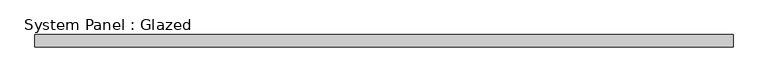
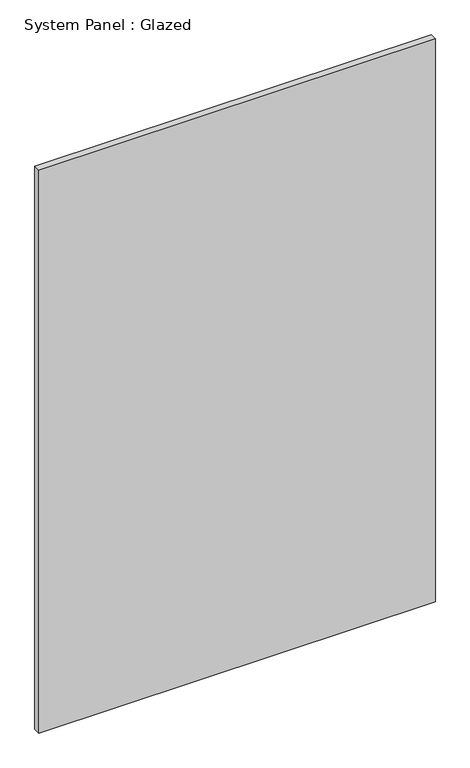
"""IFC4 building model written with IfcOpenShell, lengths in millimetres: plate geometry, System Panel : Glazed."""

import ifcopenshell
import ifcopenshell.guid

model = None  # the IFC model being written
_history = None  # IfcOwnerHistory: only IFC2X3 demands one
_inside = {}  # id of a spatial element -> (the spatial element, [elements in it])
_under = {}  # id of a project, library or spatial element -> (it, [spatial elements below it])
_declared = {}  # id of a project -> (the project, [libraries it declares])
_typed = {}  # id of a type object -> (the type object, [elements of that type])
_made_of = {}  # id of a material, layer set ... -> (it, [elements and type objects made of it])


def new_model(schema):
    """Start an empty IFC model of exactly this schema.

    Asked for "IFC4X3", IfcOpenShell would pick the latest addendum, in which some entities
    have other attributes; the version numbers below select the first issue.
    IFC2X3 requires an IfcOwnerHistory on every rooted entity: one is made here for all.
    """
    global model, _history
    if schema == "IFC4X3":
        model = ifcopenshell.file(schema_version=(4, 3, 0, 0))
    else:
        model = ifcopenshell.file(schema=schema)
    _inside.clear()
    _under.clear()
    _declared.clear()
    _typed.clear()
    _made_of.clear()
    _history = None
    if model.schema == "IFC2X3":
        org = make("IfcOrganization", Name="unknown")
        user = make(
            "IfcPersonAndOrganization",
            ThePerson=make("IfcPerson", FamilyName="unknown"),
            TheOrganization=org,
        )
        app = make(
            "IfcApplication",
            ApplicationDeveloper=org,
            Version="unknown",
            ApplicationFullName="unknown",
            ApplicationIdentifier="unknown",
        )
        _history = make(
            "IfcOwnerHistory",
            OwningUser=user,
            OwningApplication=app,
            ChangeAction="ADDED",
            CreationDate=0,
        )
    return model


def make(cls, **values):
    """One entity of the class cls with the attributes given. An attribute that is None is left unset."""
    return model.create_entity(
        cls, **{name: value for name, value in values.items() if value is not None}
    )


def rooted(cls, **values):
    """An entity with a GlobalId (a new one), such as an element, a storey or a relation."""
    return make(cls, GlobalId=ifcopenshell.guid.new(), OwnerHistory=_history, **values)


def si_unit(unit_type, name, prefix=None):
    """IfcSIUnit, for example si_unit("LENGTHUNIT", "METRE", prefix="MILLI")."""
    return make("IfcSIUnit", UnitType=unit_type, Prefix=prefix, Name=name)


def assignment(units):
    """IfcUnitAssignment: the units of a project."""
    return None if units is None else make("IfcUnitAssignment", Units=units)


def point(xyz):
    """IfcCartesianPoint."""
    return None if xyz is None else make("IfcCartesianPoint", Coordinates=xyz)


def direction(xyz):
    """IfcDirection."""
    return None if xyz is None else make("IfcDirection", DirectionRatios=xyz)


def frame(location, z_axis=None, x_axis=None):
    """IfcAxis2Placement3D, a coordinate frame: its origin and axes. An axis left out is left unset."""
    return make(
        "IfcAxis2Placement3D",
        Location=point(location),
        Axis=direction(z_axis),
        RefDirection=direction(x_axis),
    )


def origin():
    """The frame at (0, 0, 0) with its axes left unset."""
    return frame((0.0, 0.0, 0.0))


def origin_with_axes():
    """The frame at (0, 0, 0) with the z axis (0, 0, 1) and the x axis (1, 0, 0) written out."""
    return frame((0.0, 0.0, 0.0), z_axis=(0.0, 0.0, 1.0), x_axis=(1.0, 0.0, 0.0))


def place(relative_to, where):
    """IfcLocalPlacement: puts the frame where relative to a parent placement (None: the world)."""
    return make(
        "IfcLocalPlacement", PlacementRelTo=relative_to, RelativePlacement=where
    )


def context(
    kind, dimensions, precision=None, world=None, true_north=None, identifier=None
):
    """IfcGeometricRepresentationContext, for example the 3D "Model" context."""
    return make(
        "IfcGeometricRepresentationContext",
        ContextIdentifier=identifier,
        ContextType=kind,
        CoordinateSpaceDimension=dimensions,
        Precision=precision,
        WorldCoordinateSystem=world,
        TrueNorth=true_north,
    )


def project(units=None, contexts=None):
    """IfcProject with its units and contexts."""
    return rooted(
        "IfcProject",
        Name="project",
        RepresentationContexts=contexts,
        UnitsInContext=assignment(units),
    )


def spatial(cls, under=None, at=None, **own):
    """A site, building, storey or space (cls), placed at a placement, below another one or the project."""
    s = rooted(cls, ObjectPlacement=at, **own)
    if under is not None:
        _under.setdefault(under.id(), (under, []))[1].append(s)
    return s


def polyline(points):
    """IfcPolyline through the points."""
    return make("IfcPolyline", Points=[point(p) for p in points])


def outline(outer, holes=None, kind="AREA"):
    """IfcArbitraryClosedProfileDef: a profile drawn as a closed curve; with holes, ...WithVoids."""
    if holes is None:
        return make("IfcArbitraryClosedProfileDef", ProfileType=kind, OuterCurve=outer)
    return make(
        "IfcArbitraryProfileDefWithVoids",
        ProfileType=kind,
        OuterCurve=outer,
        InnerCurves=holes,
    )


def extrude(swept, where, along, depth):
    """IfcExtrudedAreaSolid: the profile swept, set in the frame where, extruded along a direction by depth."""
    return make(
        "IfcExtrudedAreaSolid",
        SweptArea=swept,
        Position=where,
        ExtrudedDirection=direction(along),
        Depth=depth,
    )


def shape(context_of_items, identifier, shape_type, items):
    """IfcShapeRepresentation: the items that make up one representation, for example the "Body"."""
    return make(
        "IfcShapeRepresentation",
        ContextOfItems=context_of_items,
        RepresentationIdentifier=identifier,
        RepresentationType=shape_type,
        Items=items,
    )


def source(mapping_origin, context_of_items, identifier, shape_type, items):
    """IfcRepresentationMap: a shape defined once, which mapped items show again and again."""
    return make(
        "IfcRepresentationMap",
        MappingOrigin=mapping_origin,
        MappedRepresentation=shape(context_of_items, identifier, shape_type, items),
    )


def transform(
    local_origin,
    x_axis=None,
    y_axis=None,
    z_axis=None,
    scale=None,
    scale2=None,
    scale3=None,
    uniform=True,
):
    """IfcCartesianTransformationOperator3D, or its non-uniform kind. x_axis, y_axis, z_axis: its Axis1, 2, 3."""
    if uniform:
        return make(
            "IfcCartesianTransformationOperator3D",
            Axis1=direction(x_axis),
            Axis2=direction(y_axis),
            LocalOrigin=point(local_origin),
            Scale=scale,
            Axis3=direction(z_axis),
        )
    return make(
        "IfcCartesianTransformationOperator3DnonUniform",
        Axis1=direction(x_axis),
        Axis2=direction(y_axis),
        LocalOrigin=point(local_origin),
        Scale=scale,
        Axis3=direction(z_axis),
        Scale2=scale2,
        Scale3=scale3,
    )


def mapped(mapping_source, mapping_target):
    """IfcMappedItem: shows the shape of a source again, moved by a transform."""
    return make(
        "IfcMappedItem", MappingSource=mapping_source, MappingTarget=mapping_target
    )


def made_of(thing, what):
    """Note that an element or type object is made of a material, layer set ...; save() writes the relation."""
    if what is not None:
        _made_of.setdefault(what.id(), (what, []))[1].append(thing)
    return thing


def element(
    cls,
    number,
    at=None,
    inside=None,
    cuts=None,
    type_object=None,
    material=None,
    context=None,
    identifier="Body",
    shape_type=None,
    held_by="IfcProductDefinitionShape",
    body=None,
    shapes=None,
    **own,
):
    """One element of the class cls, such as IfcWall. Its Tag is "e" and its number.

    at: its placement. inside: the storey or other place that contains it. cuts: it is an
    opening in that element (IfcRelVoidsElement). A single representation is given by context,
    identifier, shape_type and body (its items); several are given by shapes. held_by: the class
    of the entity that holds the representations. save() writes the other relations.
    """
    e = rooted(cls, Tag="e%d" % number, ObjectPlacement=at, **own)
    if body is not None:
        shapes = [shape(context, identifier, shape_type, body)]
    if shapes is not None:
        e.Representation = make(held_by, Representations=shapes)
    if inside is not None:
        _inside.setdefault(inside.id(), (inside, []))[1].append(e)
    if cuts is not None:
        rooted(
            "IfcRelVoidsElement", RelatingBuildingElement=cuts, RelatedOpeningElement=e
        )
    if type_object is not None:
        _typed.setdefault(type_object.id(), (type_object, []))[1].append(e)
    return made_of(e, material)


def aggregate(whole, parts):
    """IfcRelAggregates: a whole, such as a stair, and the parts it consists of."""
    return rooted("IfcRelAggregates", RelatingObject=whole, RelatedObjects=parts)


def save(model, path):
    """Write the relations noted so far, then the file.

    IfcRelAggregates (storeys below a building ...), IfcRelContainedInSpatialStructure (elements
    in a storey), IfcRelDefinesByType, IfcRelAssociatesMaterial and IfcRelDeclares: one each for
    every whole, place, type object, material and project.
    """
    for whole, parts in _under.values():
        aggregate(whole, parts)
    for where, things in _inside.values():
        rooted(
            "IfcRelContainedInSpatialStructure",
            RelatedElements=things,
            RelatingStructure=where,
        )
    for kind, things in _typed.values():
        rooted("IfcRelDefinesByType", RelatedObjects=things, RelatingType=kind)
    for what, things in _made_of.values():
        rooted("IfcRelAssociatesMaterial", RelatedObjects=things, RelatingMaterial=what)
    for by, libraries in _declared.values():
        rooted("IfcRelDeclares", RelatingContext=by, RelatedDefinitions=libraries)
    model.write(path)


def system_panel_glazed_73dfcaf4(model_context):
    return source(origin(), model_context, "Body", "SweptSolid", [
        extrude(outline(polyline([(714.9093139, 24.5), (-714.9093139, 24.5), (-714.9093139, 49.5), (714.9093139, 49.5), (714.9093139, 24.5)])), origin_with_axes(), (0.0, 0.0, 1.0), 2145.0),
    ])


if __name__ == "__main__":
    model = new_model("IFC4")
    model_context = context("Model", 3, world=origin())
    ifc_project = project(units=[si_unit("LENGTHUNIT", "METRE", prefix="MILLI")], contexts=[model_context])
    site = spatial("IfcSite", under=ifc_project)
    building = spatial("IfcBuilding", under=site)
    placement = place(None, origin())
    system_panel_glazed_shape = system_panel_glazed_73dfcaf4(model_context)
    element("IfcPlate", 1, ObjectType="System Panel : Glazed", at=placement, inside=building, context=model_context, shape_type="MappedRepresentation", body=[
        mapped(system_panel_glazed_shape, transform((0.0, 0.0, 0.0), x_axis=(1.0, 0.0, 0.0), y_axis=(0.0, 1.0, 0.0), z_axis=(0.0, 0.0, 1.0))),
    ])
    save(model, "model.ifc")
